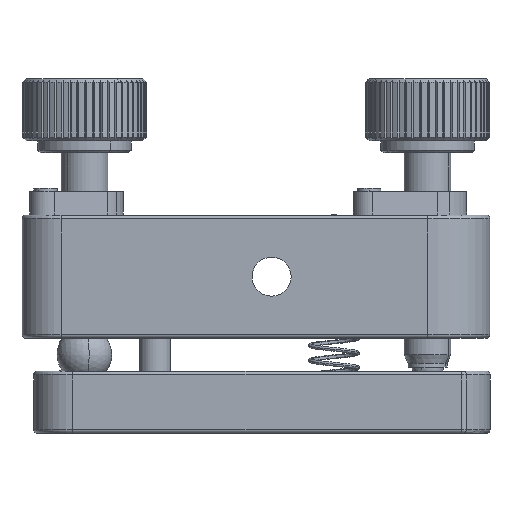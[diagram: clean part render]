
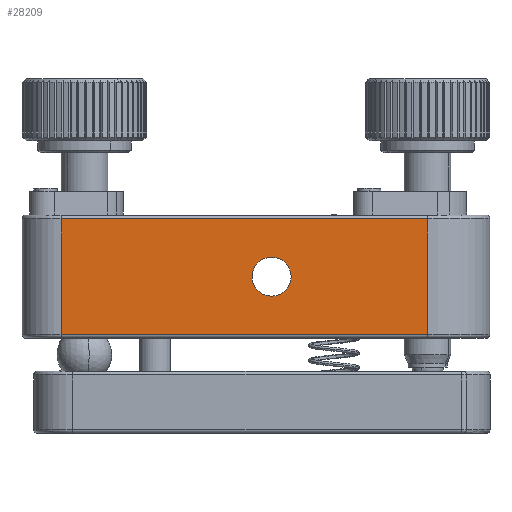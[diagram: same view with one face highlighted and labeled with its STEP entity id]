
A CAD part, front view. The second image highlights one B-rep face of the part: STEP entity #28209.
In plain terms, the highlighted planar face has unit normal (0, -1, 0).
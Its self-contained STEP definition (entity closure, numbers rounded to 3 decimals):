
#19 = CARTESIAN_POINT ( 'NONE',  ( 56.652, 21.266, -50.889 ) ) ;
#167 = PLANE ( 'NONE',  #21390 ) ;
#405 = CARTESIAN_POINT ( 'NONE',  ( 56.652, 21.266, -50.889 ) ) ;
#919 = CARTESIAN_POINT ( 'NONE',  ( 54.152, 21.266, -50.889 ) ) ;
#2482 = ORIENTED_EDGE ( 'NONE', *, *, #10087, .T. ) ;
#2819 = EDGE_CURVE ( 'NONE', #11441, #34783, #22042, .T. ) ;
#3806 = EDGE_LOOP ( 'NONE', ( #25110, #21310, #13433, #2482 ) ) ;
#4776 = EDGE_LOOP ( 'NONE', ( #26788, #16453 ) ) ;
#6429 = AXIS2_PLACEMENT_3D ( 'NONE', #405, #11463, #22514 ) ;
#6623 = CARTESIAN_POINT ( 'NONE',  ( 59.152, 21.266, -50.889 ) ) ;
#6931 = VECTOR ( 'NONE', #20320, 1000. ) ;
#7008 = DIRECTION ( 'NONE',  ( 0., 0., -1. ) ) ;
#9266 = CARTESIAN_POINT ( 'NONE',  ( 76.652, 21.266, -42.989 ) ) ;
#9460 = DIRECTION ( 'NONE',  ( -1., 0., 0. ) ) ;
#10087 = EDGE_CURVE ( 'NONE', #11861, #34071, #23221, .T. ) ;
#11073 = DIRECTION ( 'NONE',  ( 0., -1., 0. ) ) ;
#11226 = CARTESIAN_POINT ( 'NONE',  ( 56.652, 21.266, -42.989 ) ) ;
#11441 = VERTEX_POINT ( 'NONE', #919 ) ;
#11463 = DIRECTION ( 'NONE',  ( 0., -1., 0. ) ) ;
#11861 = VERTEX_POINT ( 'NONE', #34179 ) ;
#12029 = VECTOR ( 'NONE', #34268, 1000. ) ;
#12215 = LINE ( 'NONE', #23246, #12029 ) ;
#12727 = EDGE_CURVE ( 'NONE', #11861, #13679, #34051, .T. ) ;
#13433 = ORIENTED_EDGE ( 'NONE', *, *, #12727, .F. ) ;
#13679 = VERTEX_POINT ( 'NONE', #34146 ) ;
#13958 = FACE_BOUND ( 'NONE', #4776, .T. ) ;
#14082 = VECTOR ( 'NONE', #9460, 1000. ) ;
#15744 = VERTEX_POINT ( 'NONE', #25557 ) ;
#16386 = AXIS2_PLACEMENT_3D ( 'NONE', #19, #11073, #22112 ) ;
#16453 = ORIENTED_EDGE ( 'NONE', *, *, #2819, .F. ) ;
#18126 = EDGE_CURVE ( 'NONE', #34071, #15744, #20773, .T. ) ;
#20320 = DIRECTION ( 'NONE',  ( 0., 0., -1. ) ) ;
#20773 = LINE ( 'NONE', #31810, #31062 ) ;
#21310 = ORIENTED_EDGE ( 'NONE', *, *, #35221, .T. ) ;
#21390 = AXIS2_PLACEMENT_3D ( 'NONE', #11226, #22266, #33285 ) ;
#22042 = CIRCLE ( 'NONE', #6429, 2.5 ) ;
#22112 = DIRECTION ( 'NONE',  ( 1., 0., 0. ) ) ;
#22266 = DIRECTION ( 'NONE',  ( 0., -1., 0. ) ) ;
#22514 = DIRECTION ( 'NONE',  ( 1., 0., 0. ) ) ;
#23221 = LINE ( 'NONE', #34240, #14082 ) ;
#23246 = CARTESIAN_POINT ( 'NONE',  ( 76.652, 21.266, -58.289 ) ) ;
#24268 = EDGE_CURVE ( 'NONE', #34783, #11441, #31984, .T. ) ;
#24976 = FACE_OUTER_BOUND ( 'NONE', #3806, .T. ) ;
#25110 = ORIENTED_EDGE ( 'NONE', *, *, #18126, .T. ) ;
#25557 = CARTESIAN_POINT ( 'NONE',  ( 29.652, 21.266, -58.289 ) ) ;
#26788 = ORIENTED_EDGE ( 'NONE', *, *, #24268, .F. ) ;
#28209 = ADVANCED_FACE ( 'NONE', ( #13958, #24976 ), #167, .T. ) ;
#31062 = VECTOR ( 'NONE', #7008, 1000. ) ;
#31810 = CARTESIAN_POINT ( 'NONE',  ( 29.652, 21.266, -42.989 ) ) ;
#31984 = CIRCLE ( 'NONE', #16386, 2.5 ) ;
#33285 = DIRECTION ( 'NONE',  ( 0., 0., -1. ) ) ;
#34051 = LINE ( 'NONE', #9266, #6931 ) ;
#34071 = VERTEX_POINT ( 'NONE', #35625 ) ;
#34146 = CARTESIAN_POINT ( 'NONE',  ( 76.652, 21.266, -58.289 ) ) ;
#34179 = CARTESIAN_POINT ( 'NONE',  ( 76.652, 21.266, -43.489 ) ) ;
#34240 = CARTESIAN_POINT ( 'NONE',  ( 56.652, 21.266, -43.489 ) ) ;
#34268 = DIRECTION ( 'NONE',  ( 1., 0., 0. ) ) ;
#34783 = VERTEX_POINT ( 'NONE', #6623 ) ;
#35221 = EDGE_CURVE ( 'NONE', #15744, #13679, #12215, .T. ) ;
#35625 = CARTESIAN_POINT ( 'NONE',  ( 29.652, 21.266, -43.489 ) ) ;
